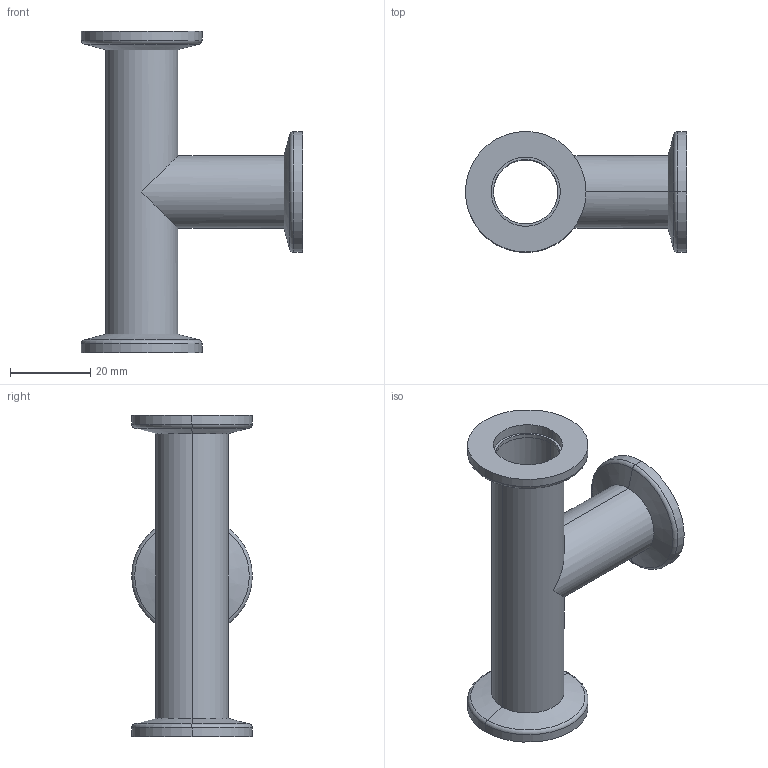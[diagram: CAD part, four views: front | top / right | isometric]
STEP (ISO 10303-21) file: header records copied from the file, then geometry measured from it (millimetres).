
FILE_DESCRIPTION (( 'STEP AP214' ), '1' );
FILE_NAME ('W3TS16.STEP', '2020-04-09T07:53:26', ( '' ), ( '' ), 'SwSTEP 2.0', 'SolidWorks 2018', '' );
FILE_SCHEMA (( 'AUTOMOTIVE_DESIGN' ));
Length unit declared in the file: millimetre
Products named in the file (1): W3TS16
Bounding box: 55 x 30 x 80 mm (x, y, z)
Volume: 10635.5 mm3; surface area: 15457.4 mm2
Topology: 5 solids, 5 shells, 60 faces, 132 edges, 82 vertices
Faces by surface type: cylinder 32, plane 16, torus 6, cone 6
Entity records: 1758 total; most frequent: CARTESIAN_POINT 323, DIRECTION 310, ORIENTED_EDGE 264, AXIS2_PLACEMENT_3D 133, EDGE_CURVE 132, VERTEX_POINT 82, EDGE_LOOP 72, CIRCLE 72
